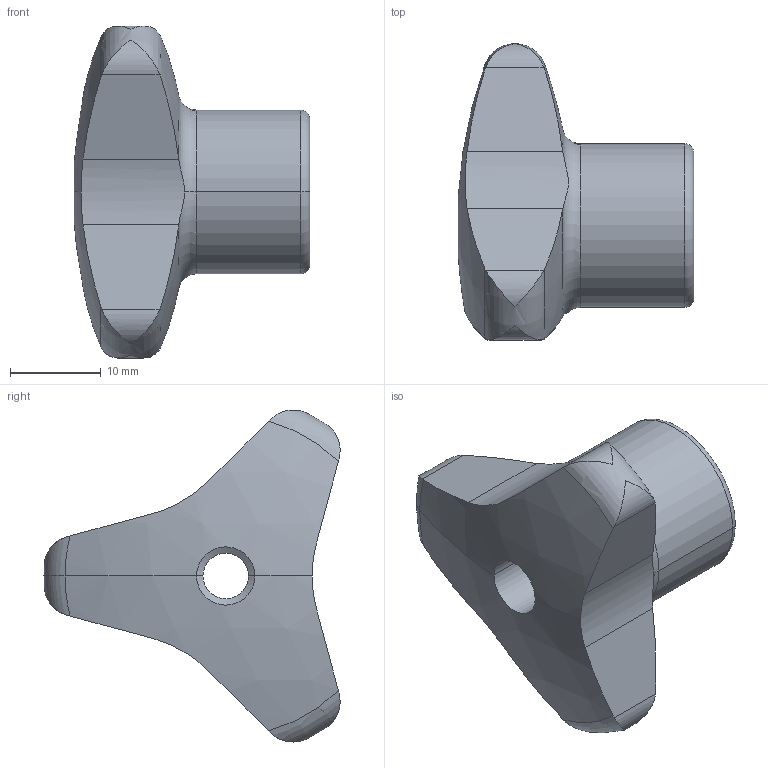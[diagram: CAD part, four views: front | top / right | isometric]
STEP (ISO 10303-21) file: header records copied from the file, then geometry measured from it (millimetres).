
FILE_DESCRIPTION (( 'STEP AP214' ), '1' );
FILE_NAME ('5345-40-M6-D.step', '2019-06-13T08:48:42', ( 'user' ), ( '' ), 'SwSTEP 2.0', 'SolidWorks 2019', '' );
FILE_SCHEMA (( 'AUTOMOTIVE_DESIGN' ));
Length unit declared in the file: millimetre
Products named in the file (1): 5345-40-M6-D
Bounding box: 25.9 x 32.56 x 36.49 mm (x, y, z)
Volume: 9190.9 mm3; surface area: 3350.6 mm2
Topology: 1 solids, 1 shells, 39 faces, 107 edges, 69 vertices
Faces by surface type: cylinder 16, torus 8, plane 7, sphere 6, cone 2
Entity records: 1533 total; most frequent: CARTESIAN_POINT 518, ORIENTED_EDGE 214, DIRECTION 193, EDGE_CURVE 107, AXIS2_PLACEMENT_3D 86, VERTEX_POINT 69, CIRCLE 46, B_SPLINE_CURVE_WITH_KNOTS 40
